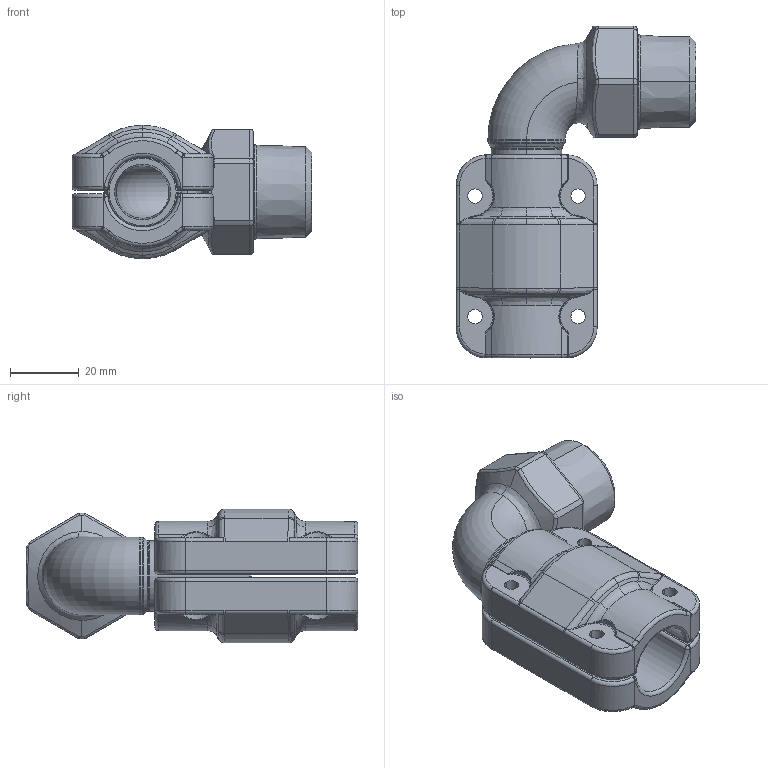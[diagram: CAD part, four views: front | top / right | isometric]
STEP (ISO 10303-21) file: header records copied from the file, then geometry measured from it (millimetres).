
FILE_DESCRIPTION((''),'2;1');
FILE_NAME('AU15111599_ASM','2017-05-12T',('Administrator'),(''),'PRO/ENGINEER BY PARAMETRIC TECHNOLOGY CORPORATION, 2009360','PRO/ENGINEER BY PARAMETRIC TECHNOLOGY CORPORATION, 2009360','');
FILE_SCHEMA(('AUTOMOTIVE_DESIGN_CC2 { 1 2 10303 214 -1 1 5 2 }'));
Length unit declared in the file: millimetre
Products named in the file (5): AU15111500; 201510020000_38; 201510020001_10; 2015100200_ASM; AU15111599_ASM
Assembly tree (4 placements, depth 3):
  AU15111599_ASM
    AU15111500
    2015100200_ASM
      201510020000_38
      201510020001_10
Bounding box: 69.72 x 96.46 x 38.8 mm (x, y, z)
Volume: 67792.6 mm3; surface area: 30372.5 mm2
Topology: 3 solids, 9 shells, 443 faces, 1049 edges, 625 vertices
Faces by surface type: bspline 144, cylinder 128, torus 92, plane 47, cone 24, sphere 8
Entity records: 21772 total; most frequent: CARTESIAN_POINT 9410, ORIENTED_EDGE 2098, DIRECTION 1644, PRESENTATION_STYLE_ASSIGNMENT 1052, STYLED_ITEM 1052, CURVE_STYLE 1049, EDGE_CURVE 1049, AXIS2_PLACEMENT_3D 711
